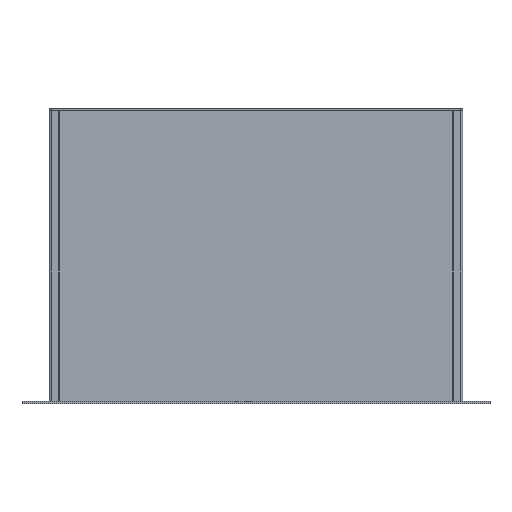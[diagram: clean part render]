
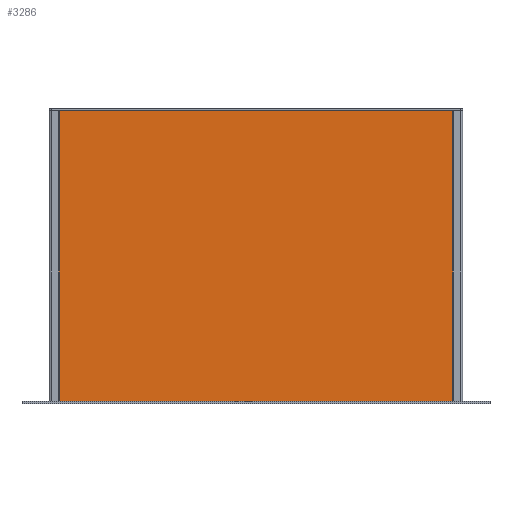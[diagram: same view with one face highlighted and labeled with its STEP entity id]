
A CAD part, top view. The second image highlights one B-rep face of the part: STEP entity #3286.
In plain terms, the highlighted planar face has unit normal (0, 0, 1).
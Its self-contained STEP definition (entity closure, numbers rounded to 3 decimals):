
#230=PLANE('',#3643);
#398=FACE_OUTER_BOUND('',#594,.T.);
#594=EDGE_LOOP('',(#3043,#3044,#3045,#3046));
#910=LINE('',#5476,#1254);
#917=LINE('',#5491,#1261);
#918=LINE('',#5493,#1262);
#919=LINE('',#5494,#1263);
#1254=VECTOR('',#4521,10.);
#1261=VECTOR('',#4534,10.);
#1262=VECTOR('',#4535,10.);
#1263=VECTOR('',#4536,10.);
#1698=VERTEX_POINT('',#5470);
#1700=VERTEX_POINT('',#5474);
#1705=VERTEX_POINT('',#5490);
#1706=VERTEX_POINT('',#5492);
#2150=EDGE_CURVE('',#1698,#1700,#910,.T.);
#2157=EDGE_CURVE('',#1705,#1698,#917,.T.);
#2158=EDGE_CURVE('',#1706,#1700,#918,.T.);
#2159=EDGE_CURVE('',#1705,#1706,#919,.T.);
#3043=ORIENTED_EDGE('',*,*,#2157,.T.);
#3044=ORIENTED_EDGE('',*,*,#2150,.T.);
#3045=ORIENTED_EDGE('',*,*,#2158,.F.);
#3046=ORIENTED_EDGE('',*,*,#2159,.F.);
#3286=ADVANCED_FACE('',(#398),#230,.T.);
#3643=AXIS2_PLACEMENT_3D('',#5489,#4532,#4533);
#4521=DIRECTION('',(0.,1.,0.));
#4532=DIRECTION('center_axis',(0.,0.,1.));
#4533=DIRECTION('ref_axis',(1.,0.,0.));
#4534=DIRECTION('',(1.,0.,0.));
#4535=DIRECTION('',(1.,0.,0.));
#4536=DIRECTION('',(0.,1.,0.));
#5470=CARTESIAN_POINT('',(444.6,0.,-19.3));
#5474=CARTESIAN_POINT('',(444.6,300.,-19.3));
#5476=CARTESIAN_POINT('',(444.6,0.,-19.3));
#5489=CARTESIAN_POINT('Origin',(38.4,0.,-19.3));
#5490=CARTESIAN_POINT('',(38.4,0.,-19.3));
#5491=CARTESIAN_POINT('',(38.4,0.,-19.3));
#5492=CARTESIAN_POINT('',(38.4,300.,-19.3));
#5493=CARTESIAN_POINT('',(38.4,300.,-19.3));
#5494=CARTESIAN_POINT('',(38.4,0.,-19.3));
